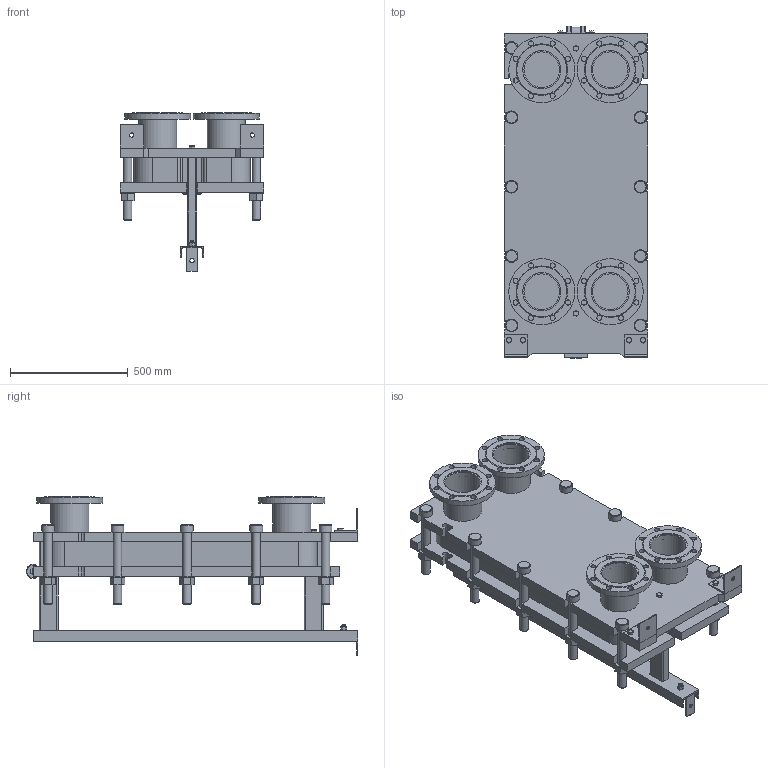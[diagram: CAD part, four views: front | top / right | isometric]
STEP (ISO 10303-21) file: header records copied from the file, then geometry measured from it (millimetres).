
FILE_DESCRIPTION(/* description */ (''),/* implementation_level */ '2;1');
FILE_NAME(/* name */ 'C:\Users\zhuro\Desktop\ENCO\TO\ЭН-041\ЭН-0,5-041-31-1.stp',/* time_stamp */ '2022-06-06T10:50:54+03:00',/* author */ ('zhuro'),/* organization */ (''),/* preprocessor_version */ 'ST-DEVELOPER v18.1',/* originating_system */ 'Autodesk Inventor 2022',/* authorisation */ '');
FILE_SCHEMA (('AUTOMOTIVE_DESIGN { 1 0 10303 214 3 1 1 }'));
Length unit declared in the file: millimetre
Products named in the file (1): ЭН-0,5-041-31-1
Bounding box: 610 x 1406.5 x 672.5 mm (x, y, z)
Volume: 135777012.3 mm3; surface area: 7503117.7 mm2
Topology: 52 solids, 52 shells, 711 faces, 1696 edges, 1094 vertices
Faces by surface type: plane 487, cylinder 177, cone 41, torus 6
Full cylindrical faces by diameter (mm): 8 x4, 10 x2, 16 x8, 18 x3, 22 x32, 36 x24, 50 x1, 54 x10, 60 x12, 151 x4, 161 x8, 280 x4
Entity records: 22667 total; most frequent: CARTESIAN_POINT 5230, DIRECTION 3644, ORIENTED_EDGE 3392, EDGE_CURVE 1696, AXIS2_PLACEMENT_3D 1272, LINE 1100, VECTOR 1100, VERTEX_POINT 1094
